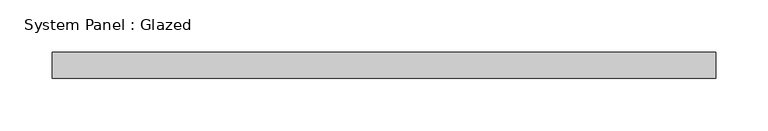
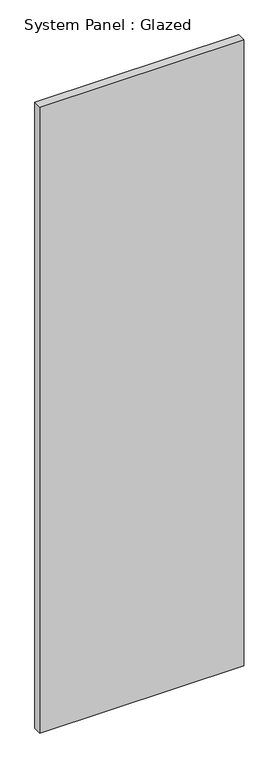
"""IFC4 building model written with IfcOpenShell, lengths in millimetres: plate geometry, System Panel : Glazed."""

from ifc_helpers import new_model, si_unit, origin, origin_with_axes, place, context, project, spatial, polyline, outline, extrude, source, transform, mapped, element, save


def system_panel_glazed_4acdfc2d(model_context):
    return source(origin(), model_context, "Body", "SweptSolid", [
        extrude(outline(polyline([(319.0875, 19.05), (-319.0875, 19.05), (-319.0875, 44.45), (319.0875, 44.45), (319.0875, 19.05)])), origin_with_axes(), (0.0, 0.0, 1.0), 2070.1),
    ])


if __name__ == "__main__":
    model = new_model("IFC4")
    model_context = context("Model", 3, world=origin())
    ifc_project = project(units=[si_unit("LENGTHUNIT", "METRE", prefix="MILLI")], contexts=[model_context])
    site = spatial("IfcSite", under=ifc_project)
    building = spatial("IfcBuilding", under=site)
    placement = place(None, origin())
    system_panel_glazed_shape = system_panel_glazed_4acdfc2d(model_context)
    element("IfcPlate", 1, ObjectType="System Panel : Glazed", at=placement, inside=building, context=model_context, shape_type="MappedRepresentation", body=[
        mapped(system_panel_glazed_shape, transform((0.0, 0.0, 0.0), x_axis=(1.0, 0.0, 0.0), y_axis=(0.0, 1.0, 0.0), z_axis=(0.0, 0.0, 1.0))),
    ])
    save(model, "model.ifc")
